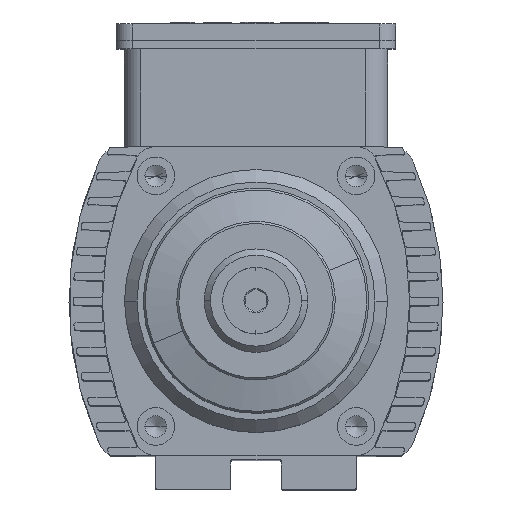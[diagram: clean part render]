
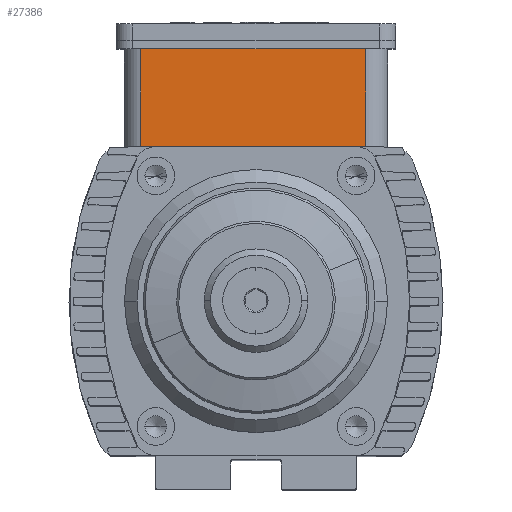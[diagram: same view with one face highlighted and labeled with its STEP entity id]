
A CAD part, top view. The second image highlights one B-rep face of the part: STEP entity #27386.
In plain terms, the highlighted planar face has unit normal (0, 0, 1) as drawn and (0, 0, -1) by its records, which use the part's own axes.
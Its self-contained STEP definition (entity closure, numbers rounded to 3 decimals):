
#415 = EDGE_CURVE ( 'NONE', #24086, #14894, #9030, .T. ) ;
#1830 = CARTESIAN_POINT ( 'NONE',  ( 27.636, 0., -31.5 ) ) ;
#1902 = VECTOR ( 'NONE', #16584, 1000. ) ;
#2255 = VECTOR ( 'NONE', #9297, 1000. ) ;
#3110 = CARTESIAN_POINT ( 'NONE',  ( 27.636, 25.5, -31.5 ) ) ;
#4281 = VERTEX_POINT ( 'NONE', #1830 ) ;
#6384 = LINE ( 'NONE', #3110, #16827 ) ;
#7036 = EDGE_CURVE ( 'NONE', #31397, #24086, #15873, .T. ) ;
#7876 = EDGE_CURVE ( 'NONE', #14894, #4281, #23136, .T. ) ;
#8865 = DIRECTION ( 'NONE',  ( -1., 0., 0. ) ) ;
#9030 = LINE ( 'NONE', #31222, #21836 ) ;
#9297 = DIRECTION ( 'NONE',  ( -1., 0., 0. ) ) ;
#9304 = CARTESIAN_POINT ( 'NONE',  ( 27.636, 23.5, -31.5 ) ) ;
#11317 = CARTESIAN_POINT ( 'NONE',  ( -26.233, 23.5, -31.5 ) ) ;
#12141 = DIRECTION ( 'NONE',  ( 0., 0., -1. ) ) ;
#12573 = CARTESIAN_POINT ( 'NONE',  ( 27.636, 23.5, -31.5 ) ) ;
#14894 = VERTEX_POINT ( 'NONE', #22818 ) ;
#15164 = ORIENTED_EDGE ( 'NONE', *, *, #7876, .F. ) ;
#15448 = CARTESIAN_POINT ( 'NONE',  ( -69.453, 25.5, -31.5 ) ) ;
#15596 = FACE_OUTER_BOUND ( 'NONE', #16748, .T. ) ;
#15873 = LINE ( 'NONE', #12573, #2255 ) ;
#16429 = AXIS2_PLACEMENT_3D ( 'NONE', #15448, #12141, #8865 ) ;
#16584 = DIRECTION ( 'NONE',  ( 1., 0., 0. ) ) ;
#16748 = EDGE_LOOP ( 'NONE', ( #31154, #31865, #20347, #15164 ) ) ;
#16827 = VECTOR ( 'NONE', #31838, 1000. ) ;
#19827 = CARTESIAN_POINT ( 'NONE',  ( -69.453, 0., -31.5 ) ) ;
#20347 = ORIENTED_EDGE ( 'NONE', *, *, #26900, .T. ) ;
#21836 = VECTOR ( 'NONE', #27957, 1000. ) ;
#22818 = CARTESIAN_POINT ( 'NONE',  ( -26.233, 0., -31.5 ) ) ;
#23136 = LINE ( 'NONE', #19827, #1902 ) ;
#24086 = VERTEX_POINT ( 'NONE', #11317 ) ;
#26900 = EDGE_CURVE ( 'NONE', #31397, #4281, #6384, .T. ) ;
#27386 = ADVANCED_FACE ( 'NONE', ( #15596 ), #28564, .T. ) ;
#27957 = DIRECTION ( 'NONE',  ( 0., -1., 0. ) ) ;
#28564 = PLANE ( 'NONE',  #16429 ) ;
#31154 = ORIENTED_EDGE ( 'NONE', *, *, #415, .F. ) ;
#31222 = CARTESIAN_POINT ( 'NONE',  ( -26.233, 25.5, -31.5 ) ) ;
#31397 = VERTEX_POINT ( 'NONE', #9304 ) ;
#31838 = DIRECTION ( 'NONE',  ( 0., -1., 0. ) ) ;
#31865 = ORIENTED_EDGE ( 'NONE', *, *, #7036, .F. ) ;
